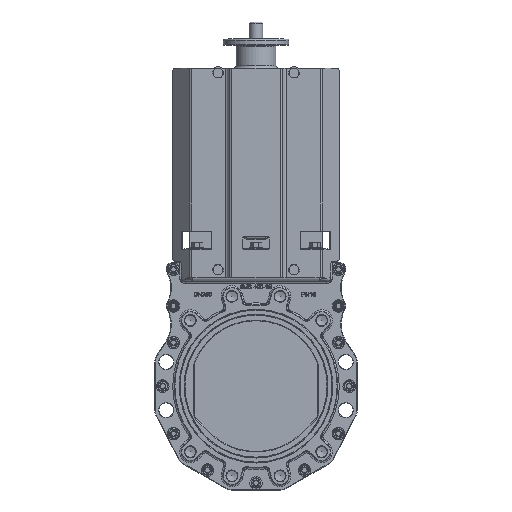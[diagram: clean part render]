
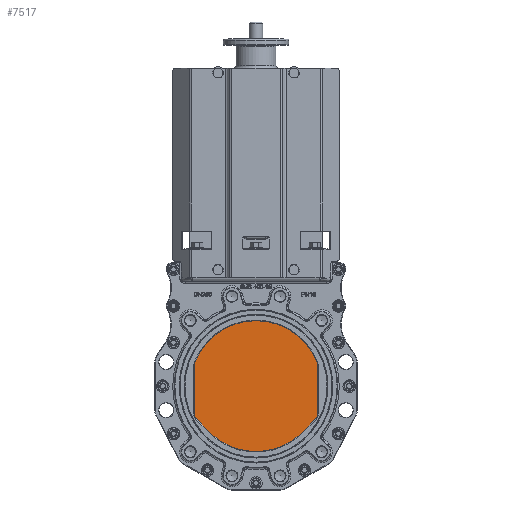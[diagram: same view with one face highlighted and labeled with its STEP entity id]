
A CAD part, top view. The second image highlights one B-rep face of the part: STEP entity #7517.
In plain terms, the highlighted planar face has unit normal (0, 0, 1).
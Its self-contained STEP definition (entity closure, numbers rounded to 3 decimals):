
#5130=FACE_OUTER_BOUND('',#12981,.T.);
#7517=ADVANCED_FACE('',(#5130),#9616,.T.);
#9616=PLANE('',#48199);
#12981=EDGE_LOOP('',(#22875,#22876,#22877,#22878,#22879,#22880,#22881,#22882,
#22883,#22884));
#16035=CIRCLE('',#47927,10.);
#16036=CIRCLE('',#47930,10.);
#16038=CIRCLE('',#47934,125.);
#16040=CIRCLE('',#47938,10.);
#16042=CIRCLE('',#47942,10.);
#16043=CIRCLE('',#47944,125.);
#22875=ORIENTED_EDGE('',*,*,#36727,.F.);
#22876=ORIENTED_EDGE('',*,*,#36752,.F.);
#22877=ORIENTED_EDGE('',*,*,#36750,.F.);
#22878=ORIENTED_EDGE('',*,*,#36747,.F.);
#22879=ORIENTED_EDGE('',*,*,#36744,.F.);
#22880=ORIENTED_EDGE('',*,*,#36741,.F.);
#22881=ORIENTED_EDGE('',*,*,#36738,.F.);
#22882=ORIENTED_EDGE('',*,*,#36735,.F.);
#22883=ORIENTED_EDGE('',*,*,#36732,.F.);
#22884=ORIENTED_EDGE('',*,*,#36729,.F.);
#31827=VERTEX_POINT('',#70757);
#31828=VERTEX_POINT('',#70759);
#31829=VERTEX_POINT('',#70763);
#31831=VERTEX_POINT('',#70769);
#31833=VERTEX_POINT('',#70775);
#31835=VERTEX_POINT('',#70781);
#31837=VERTEX_POINT('',#70787);
#31839=VERTEX_POINT('',#70793);
#31841=VERTEX_POINT('',#70799);
#31842=VERTEX_POINT('',#70804);
#36727=EDGE_CURVE('',#31827,#31828,#16035,.T.);
#36729=EDGE_CURVE('',#31828,#31829,#41836,.T.);
#36732=EDGE_CURVE('',#31829,#31831,#16036,.T.);
#36735=EDGE_CURVE('',#31831,#31833,#41840,.T.);
#36738=EDGE_CURVE('',#31833,#31835,#16038,.T.);
#36741=EDGE_CURVE('',#31835,#31837,#41844,.T.);
#36744=EDGE_CURVE('',#31837,#31839,#16040,.T.);
#36747=EDGE_CURVE('',#31839,#31841,#41848,.T.);
#36750=EDGE_CURVE('',#31841,#31842,#16042,.T.);
#36752=EDGE_CURVE('',#31842,#31827,#16043,.T.);
#41836=LINE('',#70762,#44619);
#41840=LINE('',#70774,#44623);
#41844=LINE('',#70786,#44627);
#41848=LINE('',#70798,#44631);
#44619=VECTOR('',#54979,1.);
#44623=VECTOR('',#54991,1.);
#44627=VECTOR('',#55003,1.);
#44631=VECTOR('',#55015,1.);
#47927=AXIS2_PLACEMENT_3D('',#70758,#54974,#54975);
#47930=AXIS2_PLACEMENT_3D('',#70768,#54984,#54985);
#47934=AXIS2_PLACEMENT_3D('',#70780,#54996,#54997);
#47938=AXIS2_PLACEMENT_3D('',#70792,#55008,#55009);
#47942=AXIS2_PLACEMENT_3D('',#70803,#55020,#55021);
#47944=AXIS2_PLACEMENT_3D('',#70807,#55025,#55026);
#48199=AXIS2_PLACEMENT_3D('',#73725,#55901,#55902);
#54974=DIRECTION('',(0.,0.,-1.));
#54975=DIRECTION('',(1.,0.,0.));
#54979=DIRECTION('',(0.,-1.,0.));
#54984=DIRECTION('',(0.,0.,-1.));
#54985=DIRECTION('',(1.,0.,0.));
#54991=DIRECTION('',(-0.707,-0.707,0.));
#54996=DIRECTION('',(0.,0.,-1.));
#54997=DIRECTION('',(1.,0.,0.));
#55003=DIRECTION('',(-0.707,0.707,0.));
#55008=DIRECTION('',(0.,0.,-1.));
#55009=DIRECTION('',(1.,0.,0.));
#55015=DIRECTION('',(0.,1.,0.));
#55020=DIRECTION('',(0.,0.,-1.));
#55021=DIRECTION('',(1.,0.,0.));
#55025=DIRECTION('',(0.,0.,-1.));
#55026=DIRECTION('',(1.,0.,0.));
#55901=DIRECTION('',(0.,0.,1.));
#55902=DIRECTION('',(1.,0.,0.));
#70757=CARTESIAN_POINT('',(116.848,44.403,5.));
#70758=CARTESIAN_POINT('',(107.5,40.85,5.));
#70759=CARTESIAN_POINT('',(117.5,40.85,5.));
#70762=CARTESIAN_POINT('',(117.5,-59.277,5.));
#70763=CARTESIAN_POINT('',(117.5,-55.135,5.));
#70768=CARTESIAN_POINT('',(107.5,-55.135,5.));
#70769=CARTESIAN_POINT('',(114.571,-62.206,5.));
#70774=CARTESIAN_POINT('',(88.388,-88.388,5.));
#70775=CARTESIAN_POINT('',(88.388,-88.388,5.));
#70780=CARTESIAN_POINT('',(0.,0.,5.));
#70781=CARTESIAN_POINT('',(-88.388,-88.388,5.));
#70786=CARTESIAN_POINT('',(-117.5,-59.277,5.));
#70787=CARTESIAN_POINT('',(-114.571,-62.206,5.));
#70792=CARTESIAN_POINT('',(-107.5,-55.135,5.));
#70793=CARTESIAN_POINT('',(-117.5,-55.135,5.));
#70798=CARTESIAN_POINT('',(-117.5,42.647,5.));
#70799=CARTESIAN_POINT('',(-117.5,40.85,5.));
#70803=CARTESIAN_POINT('',(-107.5,40.85,5.));
#70804=CARTESIAN_POINT('',(-116.848,44.403,5.));
#70807=CARTESIAN_POINT('',(0.,0.,5.));
#73725=CARTESIAN_POINT('',(0.,118.483,5.));
